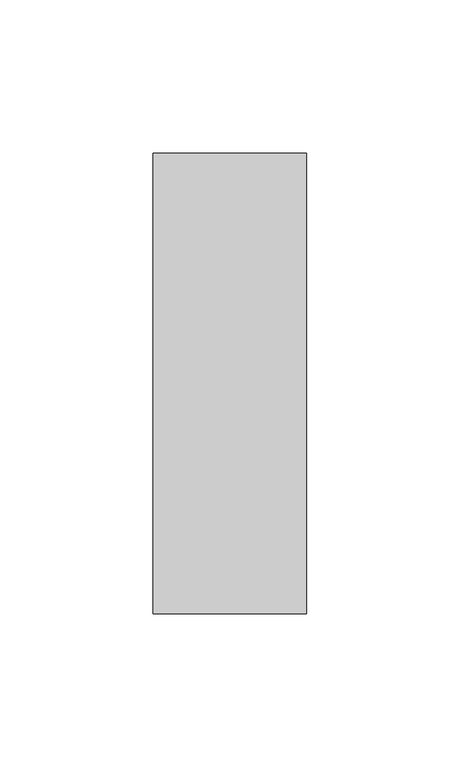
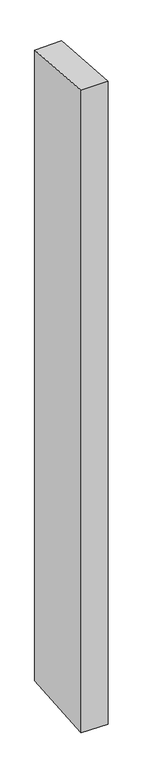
"""IFC4 building model written with IfcOpenShell, lengths in millimetres: member geometry, Прямоугольный импост : 50 x 150 мм."""

from ifc_helpers import new_model, si_unit, origin, place, context, project, spatial, faceted_brep, source, transform, mapped, element, save


def member_c56f7231(model_context):
    return source(origin(), model_context, "Body", "Brep", [
        faceted_brep([(-25.0, 75.0, -6.1848628), (25.0, 75.0, -5.5256355), (25.0, 75.0, -1247.745052), (-25.0, 75.0, -1246.9415435), (-25.0, -75.0, 5.5256355), (-25.0, -75.0, -1258.3476668), (25.0, -75.0, 6.1848628), (25.0, -75.0, -1259.1511753)], [[[0, 1, 2, 3]], [[4, 0, 3, 5]], [[6, 4, 5, 7]], [[1, 6, 7, 2]], [[1, 0, 4, 6]], [[2, 7, 5, 3]]]),
    ])


if __name__ == "__main__":
    model = new_model("IFC4")
    model_context = context("Model", 3, world=origin())
    ifc_project = project(units=[si_unit("LENGTHUNIT", "METRE", prefix="MILLI")], contexts=[model_context])
    site = spatial("IfcSite", under=ifc_project)
    building = spatial("IfcBuilding", under=site)
    placement = place(None, origin())
    member_shape = member_c56f7231(model_context)
    element("IfcMember", 1, ObjectType="Прямоугольный импост : 50 x 150 мм", at=placement, inside=building, context=model_context, shape_type="MappedRepresentation", body=[
        mapped(member_shape, transform((0.0, 0.0, 0.0), x_axis=(1.0, 0.0, 0.0), y_axis=(0.0, 1.0, 0.0), z_axis=(0.0, 0.0, 1.0))),
    ])
    save(model, "model.ifc")
